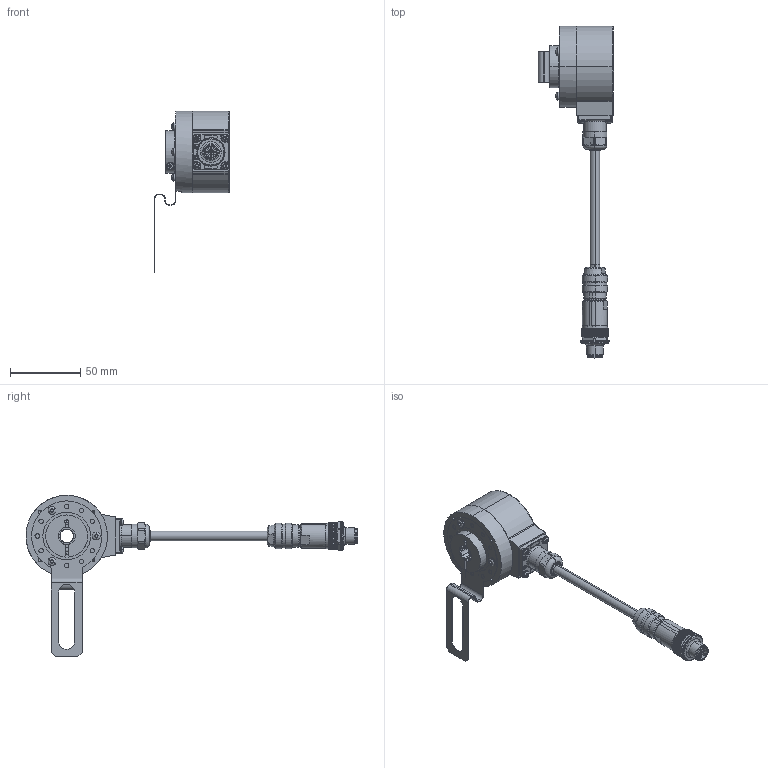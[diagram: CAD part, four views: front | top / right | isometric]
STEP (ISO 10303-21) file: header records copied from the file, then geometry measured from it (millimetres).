
FILE_DESCRIPTION (( 'STEP AP203' ), '1' );
FILE_NAME ('K58I.OXX.XXXXX.XH1452A.6XR13.XXXX.step', '2025-12-08T13:43:11', ( '' ), ( '' ), 'SwSTEP 2.0', 'SolidWorks 2021', '' );
FILE_SCHEMA (( 'CONFIG_CONTROL_DESIGN' ));
Length unit declared in the file: millimetre
Products named in the file (1): K58I.OXX.XXXXX.XH1452A.6XR13.XXXX
Bounding box: 53.79 x 236.49 x 115 mm (x, y, z)
Volume: 130870 mm3; surface area: 47300.3 mm2
Topology: 22 solids, 22 shells, 1715 faces, 4240 edges, 2600 vertices
Faces by surface type: cylinder 658, plane 610, cone 325, bspline 66, torus 40, sphere 16
Entity records: 55143 total; most frequent: CARTESIAN_POINT 15438, ORIENTED_EDGE 8428, DIRECTION 8214, EDGE_CURVE 4214, AXIS2_PLACEMENT_3D 3268, VERTEX_POINT 2598, EDGE_LOOP 1820, ADVANCED_FACE 1715
